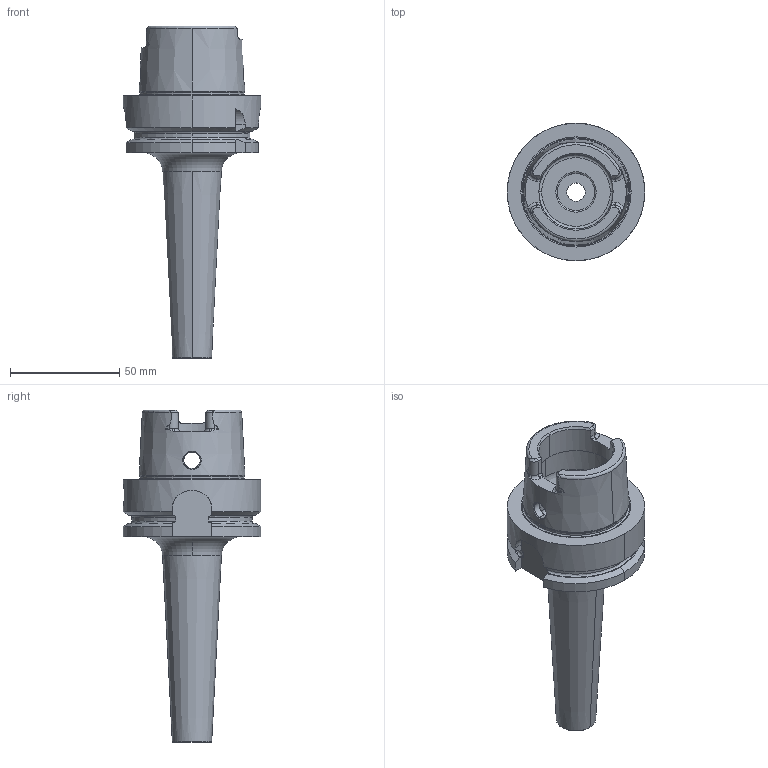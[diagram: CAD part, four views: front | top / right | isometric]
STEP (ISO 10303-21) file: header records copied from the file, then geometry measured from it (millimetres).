
FILE_DESCRIPTION(('STEP AP214'),'1');
FILE_NAME('cctmp_A3BD740C-D0F9-4D2A-9C54-752E9E878F38_2020_10_19_10_09_01_0329..stp','2020-10-19T08:09:01',('Meusburger Georg GmbH & Co KG'),('CADClick - www.CADClick.com'),'Spatial InterOp 3D',' ','unknown authorization');
FILE_SCHEMA(('AUTOMOTIVE_DESIGN { 1 0 10303 214 1 1 1 1 }'));
Length unit declared in the file: millimetre
Products named in the file (2): HWZ_HSK-A 63_12_120; HWZ_HSK-A 63_12_120_1
Assembly tree (1 placements, depth 2):
  HWZ_HSK-A 63_12_120
    HWZ_HSK-A 63_12_120_1
Bounding box: 63 x 63 x 152 mm (x, y, z)
Volume: 114522 mm3; surface area: 31421.6 mm2
Topology: 1 solids, 1 shells, 170 faces, 467 edges, 303 vertices
Faces by surface type: cylinder 53, plane 44, torus 34, cone 33, bspline 6
Entity records: 7961 total; most frequent: CARTESIAN_POINT 2270, ORIENTED_EDGE 930, DIRECTION 909, EDGE_CURVE 465, AXIS2_PLACEMENT_3D 384, VERTEX_POINT 302, CIRCLE 214, EDGE_LOOP 181
